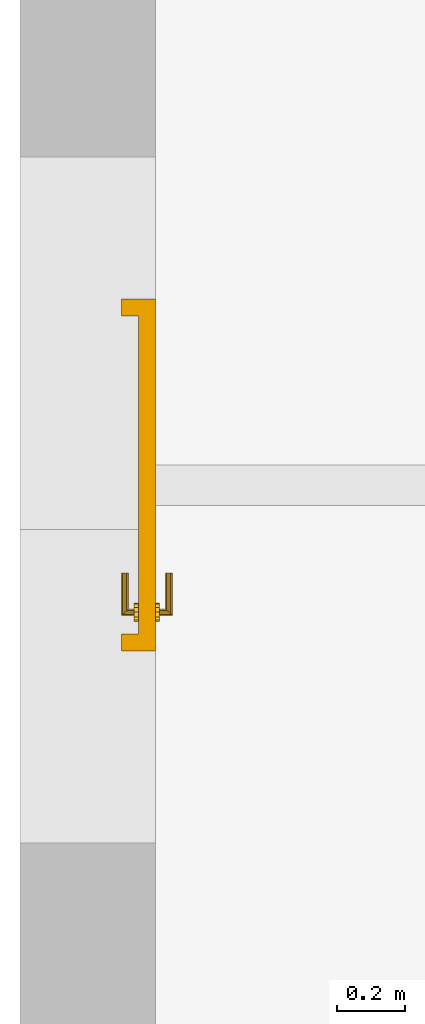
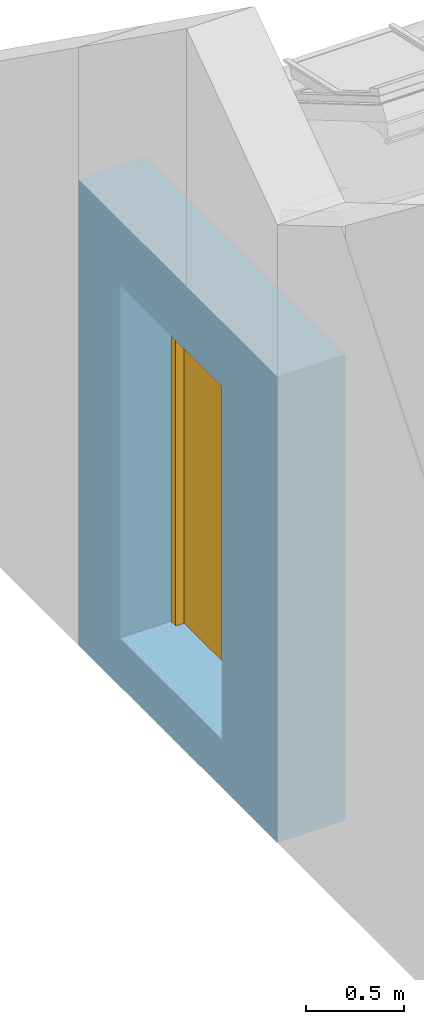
"""IFC4 building model written with IfcOpenShell, lengths in metres."""

from ifc_helpers import new_model, entity, si_unit, converted_unit, derived_unit, frame, frame_2d, origin, origin_with_axes, place, context, subcontext, project, spatial, polyline, rectangle, outline, extrude, faceted_brep, source, transform, mapped, material, layer, layer_set, layer_usage, type_object, element, fill, save


model = new_model("IFC4")

# Units and contexts
model_context = context("Model", 3, precision=1e-05, world=origin())
body_context = subcontext(model_context, "Body", "Model", "MODEL_VIEW")
ifc_project = project(units=[si_unit("LENGTHUNIT", "METRE"), si_unit("AREAUNIT", "SQUARE_METRE"), si_unit("VOLUMEUNIT", "CUBIC_METRE"), si_unit("MASSUNIT", "GRAM", prefix="KILO"), converted_unit("PLANEANGLEUNIT", "DEGREE", entity("IfcPlaneAngleMeasure", 0.0174532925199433), si_unit("PLANEANGLEUNIT", "RADIAN"), dimensions=[0, 0, 0, 0, 0, 0, 0]), derived_unit("THERMALTRANSMITTANCEUNIT", [(si_unit("POWERUNIT", "WATT"), 1), (si_unit("THERMODYNAMICTEMPERATUREUNIT", "KELVIN"), -1), (si_unit("LENGTHUNIT", "METRE"), -2)]), derived_unit("VOLUMETRICFLOWRATEUNIT", [(si_unit("LENGTHUNIT", "METRE"), 3), (converted_unit("TIMEUNIT", "hour", entity("IfcTimeMeasure", 3600.0), si_unit("TIMEUNIT", "SECOND"), dimensions=[0, 0, 1, 0, 0, 0, 0]), -1), (si_unit("LENGTHUNIT", "METRE"), -1)])], contexts=[model_context])

# Building, storeys
building_placement = place(None, origin())
building = spatial("IfcBuilding", under=ifc_project, at=building_placement, Name="Bestandsgebäude A - Sporthalle / Wohnhaus (TB 100-499)   ANPASSEN !!!", CompositionType="ELEMENT")
storey_1_placement = place(building_placement, frame((0.0, 0.0, 7.71)))
storey_1 = spatial("IfcBuildingStorey", under=building, at=storey_1_placement, Name="Geb. A Dachgeschoss (TB 450-499)", CompositionType="ELEMENT", Elevation=7.71)
storey_2_placement = place(storey_1_placement, frame((0.0, 0.0, 7.71)))
storey_2 = spatial("IfcBuildingStorey", under=storey_1, at=storey_2_placement, Name="Architektur (TB 450-459)", CompositionType="PARTIAL")

# Wall, opening, door
ifc_material = material(Name="concrete")
ifc_layer = layer(ifc_material, 0.4)
ifc_layer_set = layer_set([ifc_layer])
ifc_layer_usage = layer_usage(ifc_layer_set, "AXIS2", "POSITIVE", 0.0)
wall_placement = place(storey_2_placement, frame((-8.5, 5.63335874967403, -8.11), z_axis=(0.0, 0.0, 1.0), x_axis=(0.0, 1.0, 0.0)))
wall = element("IfcWall", 1, at=wall_placement, inside=storey_2, material=ifc_layer_usage, Name="reinforced - bearing", PredefinedType="USERDEFINED", context=body_context, shape_type="SweptSolid", body=[
    extrude(rectangle(XDim=2.02595714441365, YDim=0.4, at=frame_2d((1.01297857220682, 0.2), x_axis=(1.0, 0.0))), origin_with_axes(), (0.0, 0.0, 1.0), 2.9),
])
opening_placement = place(wall_placement, frame((1.60664125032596, 0.4, 0.299999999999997), z_axis=(0.0, -1.0, 0.0), x_axis=(0.0, 0.0, 1.0)))
opening = element("IfcOpeningElement", 2, at=opening_placement, cuts=wall, Name="Door opening", PredefinedType="OPENING", context=body_context, shape_type="SweptSolid", body=[
    extrude(outline(polyline([(2.2, 1.04), (2.2, 0.0), (0.0, 0.0), (0.0, 1.04), (2.2, 1.04)])), origin_with_axes(), (0.0, 0.0, 1.0), 0.4),
])
door_type = type_object("IfcDoorType", Name="door", OperationType="SINGLE_SWING_LEFT", ParameterTakesPrecedence=False, PredefinedType="DOOR")
shared_shape = source(origin_with_axes(), body_context, "Body", "Brep", [
    faceted_brep([(0.0, 0.100000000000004, 2.2), (0.0, 0.100000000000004, 0.0), (0.0500000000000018, 0.100000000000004, 0.0), (0.0500000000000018, 0.100000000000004, 2.2), (0.0, 0.0, 0.0), (0.0, 0.0, 2.2), (0.0500000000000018, 0.0, 2.2), (0.0500000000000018, 0.0, 0.0)], [[[0, 1, 2, 3]], [[4, 5, 6, 7]], [[1, 0, 5, 4]], [[2, 1, 4, 7]], [[3, 2, 7, 6]], [[0, 3, 6, 5]]], orient=[[False], [False], [False], [False], [False], [False]]),
    faceted_brep([(0.990000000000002, 0.100000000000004, 2.2), (0.990000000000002, 0.100000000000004, 0.0), (1.04, 0.100000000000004, 0.0), (1.04, 0.100000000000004, 2.2), (0.990000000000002, 0.0, 0.0), (0.990000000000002, 0.0, 2.2), (1.04, 0.0, 2.2), (1.04, 0.0, 0.0)], [[[0, 1, 2, 3]], [[4, 5, 6, 7]], [[1, 0, 5, 4]], [[2, 1, 4, 7]], [[3, 2, 7, 6]], [[0, 3, 6, 5]]], orient=[[False], [False], [False], [False], [False], [False]]),
    faceted_brep([(0.0500000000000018, 0.100000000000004, 2.2), (0.0500000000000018, 0.100000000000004, 2.15), (0.990000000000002, 0.100000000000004, 2.15), (0.990000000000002, 0.100000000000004, 2.2), (0.0500000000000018, 0.0, 2.15), (0.0500000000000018, 0.0, 2.2), (0.990000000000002, 0.0, 2.2), (0.990000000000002, 0.0, 2.15)], [[[0, 1, 2, 3]], [[4, 5, 6, 7]], [[1, 0, 5, 4]], [[2, 1, 4, 7]], [[3, 2, 7, 6]], [[0, 3, 6, 5]]], orient=[[False], [False], [False], [False], [False], [False]]),
    faceted_brep([(0.0500000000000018, 0.100000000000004, 2.15), (0.0500000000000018, 0.100000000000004, 0.0), (0.990000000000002, 0.100000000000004, 0.0), (0.990000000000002, 0.100000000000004, 2.15), (0.0500000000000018, 0.0500000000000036, 0.0), (0.0500000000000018, 0.0500000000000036, 2.15), (0.990000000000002, 0.0500000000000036, 2.15), (0.990000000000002, 0.0500000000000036, 0.0)], [[[0, 1, 2, 3]], [[4, 5, 6, 7]], [[1, 0, 5, 4]], [[2, 1, 4, 7]], [[3, 2, 7, 6]], [[0, 3, 6, 5]]], orient=[[False], [False], [False], [False], [False], [False]]),
    faceted_brep([(0.948815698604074, 0.0500000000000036, 0.936249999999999), (0.952500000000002, 0.0500000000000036, 0.949999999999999), (0.948815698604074, 0.0500000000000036, 0.963749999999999), (0.938750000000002, 0.0500000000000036, 0.973815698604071), (0.925000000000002, 0.0500000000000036, 0.977499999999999), (0.911250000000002, 0.0500000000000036, 0.973815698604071), (0.90118430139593, 0.0500000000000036, 0.963749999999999), (0.897500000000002, 0.0500000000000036, 0.949999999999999), (0.90118430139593, 0.0500000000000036, 0.936249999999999), (0.911250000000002, 0.0500000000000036, 0.926184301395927), (0.925000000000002, 0.0500000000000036, 0.922499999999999), (0.938750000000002, 0.0500000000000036, 0.926184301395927), (0.952500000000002, 0.0375000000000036, 0.949999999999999), (0.948815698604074, 0.0375000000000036, 0.936249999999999), (0.938750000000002, 0.0375000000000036, 0.926184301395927), (0.925000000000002, 0.0375000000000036, 0.922499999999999), (0.911250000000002, 0.0375000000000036, 0.926184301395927), (0.90118430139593, 0.0375000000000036, 0.936249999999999), (0.897500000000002, 0.0375000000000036, 0.949999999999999), (0.90118430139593, 0.0375000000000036, 0.963749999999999), (0.911250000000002, 0.0375000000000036, 0.973815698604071), (0.925000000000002, 0.0375000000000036, 0.977499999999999), (0.938750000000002, 0.0375000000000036, 0.973815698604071), (0.948815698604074, 0.0375000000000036, 0.963749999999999)], [[[0, 1, 2, 3, 4, 5, 6, 7, 8, 9, 10, 11]], [[12, 13, 14, 15, 16, 17, 18, 19, 20, 21, 22, 23]], [[1, 0, 13, 12]], [[2, 1, 12, 23]], [[3, 2, 23, 22]], [[4, 3, 22, 21]], [[5, 4, 21, 20]], [[6, 5, 20, 19]], [[7, 6, 19, 18]], [[8, 7, 18, 17]], [[9, 8, 17, 16]], [[10, 9, 16, 15]], [[11, 10, 15, 14]], [[0, 11, 14, 13]]], orient=[[False], [False], [False], [False], [False], [False], [False], [False], [False], [False], [False], [False], [False], [False]]),
    faceted_brep([(0.948815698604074, 0.0500000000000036, 1.03625), (0.952500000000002, 0.0500000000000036, 1.05), (0.948815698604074, 0.0500000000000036, 1.06375), (0.938750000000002, 0.0500000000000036, 1.07381569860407), (0.925000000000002, 0.0500000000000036, 1.0775), (0.911250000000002, 0.0500000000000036, 1.07381569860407), (0.90118430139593, 0.0500000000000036, 1.06375), (0.897500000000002, 0.0500000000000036, 1.05), (0.90118430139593, 0.0500000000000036, 1.03625), (0.911250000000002, 0.0500000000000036, 1.02618430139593), (0.925000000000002, 0.0500000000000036, 1.0225), (0.938750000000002, 0.0500000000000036, 1.02618430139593), (0.952500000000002, 0.0375000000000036, 1.05), (0.948815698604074, 0.0375000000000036, 1.03625), (0.938750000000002, 0.0375000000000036, 1.02618430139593), (0.925000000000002, 0.0375000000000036, 1.0225), (0.911250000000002, 0.0375000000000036, 1.02618430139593), (0.90118430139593, 0.0375000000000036, 1.03625), (0.897500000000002, 0.0375000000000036, 1.05), (0.90118430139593, 0.0375000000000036, 1.06375), (0.911250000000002, 0.0375000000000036, 1.07381569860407), (0.925000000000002, 0.0375000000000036, 1.0775), (0.938750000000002, 0.0375000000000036, 1.07381569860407), (0.948815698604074, 0.0375000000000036, 1.06375)], [[[0, 1, 2, 3, 4, 5, 6, 7, 8, 9, 10, 11]], [[12, 13, 14, 15, 16, 17, 18, 19, 20, 21, 22, 23]], [[1, 0, 13, 12]], [[2, 1, 12, 23]], [[3, 2, 23, 22]], [[4, 3, 22, 21]], [[5, 4, 21, 20]], [[6, 5, 20, 19]], [[7, 6, 19, 18]], [[8, 7, 18, 17]], [[9, 8, 17, 16]], [[10, 9, 16, 15]], [[11, 10, 15, 14]], [[0, 11, 14, 13]]], orient=[[False], [False], [False], [False], [False], [False], [False], [False], [False], [False], [False], [False], [False], [False]]),
    faceted_brep([(0.925000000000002, 0.0500000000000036, 1.06), (0.920000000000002, 0.0500000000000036, 1.05866025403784), (0.916339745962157, 0.0500000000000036, 1.055), (0.915000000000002, 0.0500000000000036, 1.05), (0.916339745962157, 0.0500000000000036, 1.045), (0.920000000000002, 0.0500000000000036, 1.04133974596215), (0.925000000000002, 0.0500000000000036, 1.04), (0.930000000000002, 0.0500000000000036, 1.04133974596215), (0.933660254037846, 0.0500000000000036, 1.045), (0.935000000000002, 0.0500000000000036, 1.05), (0.933660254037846, 0.0500000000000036, 1.055), (0.930000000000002, 0.0500000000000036, 1.05866025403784), (0.930000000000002, 0.00500000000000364, 1.05866025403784), (0.925000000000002, 0.0100000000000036, 1.06), (0.933660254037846, 0.00133974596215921, 1.055), (0.935000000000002, 0.0, 1.05), (0.933660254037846, 0.00133974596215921, 1.045), (0.930000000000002, 0.00500000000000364, 1.04133974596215), (0.925000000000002, 0.0100000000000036, 1.04), (0.920000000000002, 0.0150000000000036, 1.04133974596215), (0.916339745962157, 0.0186602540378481, 1.045), (0.915000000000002, 0.0200000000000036, 1.05), (0.916339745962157, 0.0186602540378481, 1.055), (0.920000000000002, 0.0150000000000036, 1.05866025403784), (0.810000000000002, 0.0100000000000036, 1.06), (0.810000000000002, 0.00500000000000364, 1.05866025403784), (0.810000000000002, 0.00133974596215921, 1.055), (0.810000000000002, 0.0, 1.05), (0.810000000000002, 0.00133974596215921, 1.045), (0.810000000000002, 0.00500000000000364, 1.04133974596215), (0.810000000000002, 0.0100000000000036, 1.04), (0.810000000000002, 0.0150000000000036, 1.04133974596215), (0.810000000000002, 0.0186602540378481, 1.045), (0.810000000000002, 0.0200000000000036, 1.05), (0.810000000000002, 0.0186602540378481, 1.055), (0.810000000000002, 0.0150000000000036, 1.05866025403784)], [[[0, 1, 2, 3, 4, 5, 6, 7, 8, 9, 10, 11]], [[0, 11, 12, 13]], [[11, 10, 14, 12]], [[10, 9, 15, 14]], [[9, 8, 16, 15]], [[8, 7, 17, 16]], [[7, 6, 18, 17]], [[6, 5, 19, 18]], [[5, 4, 20, 19]], [[4, 3, 21, 20]], [[3, 2, 22, 21]], [[2, 1, 23, 22]], [[1, 0, 13, 23]], [[24, 25, 26, 27, 28, 29, 30, 31, 32, 33, 34, 35]], [[13, 12, 25, 24]], [[12, 14, 26, 25]], [[14, 15, 27, 26]], [[15, 16, 28, 27]], [[16, 17, 29, 28]], [[17, 18, 30, 29]], [[18, 19, 31, 30]], [[19, 20, 32, 31]], [[20, 21, 33, 32]], [[21, 22, 34, 33]], [[22, 23, 35, 34]], [[23, 13, 24, 35]]], orient=[[False], [False], [False], [False], [False], [False], [False], [False], [False], [False], [False], [False], [False], [False], [False], [False], [False], [False], [False], [False], [False], [False], [False], [False], [False], [False]]),
    faceted_brep([(0.948815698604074, 0.100000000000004, 0.936249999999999), (0.938750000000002, 0.100000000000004, 0.926184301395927), (0.925000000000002, 0.100000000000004, 0.922499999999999), (0.911250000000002, 0.100000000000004, 0.926184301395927), (0.90118430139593, 0.100000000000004, 0.936249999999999), (0.897500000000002, 0.100000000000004, 0.949999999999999), (0.90118430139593, 0.100000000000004, 0.963749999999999), (0.911250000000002, 0.100000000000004, 0.973815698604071), (0.925000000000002, 0.100000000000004, 0.977499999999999), (0.938750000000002, 0.100000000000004, 0.973815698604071), (0.948815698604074, 0.100000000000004, 0.963749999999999), (0.952500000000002, 0.100000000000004, 0.949999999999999), (0.952500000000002, 0.112500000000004, 0.949999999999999), (0.948815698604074, 0.112500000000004, 0.963749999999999), (0.938750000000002, 0.112500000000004, 0.973815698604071), (0.925000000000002, 0.112500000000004, 0.977499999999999), (0.911250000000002, 0.112500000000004, 0.973815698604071), (0.90118430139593, 0.112500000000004, 0.963749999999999), (0.897500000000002, 0.112500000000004, 0.949999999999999), (0.90118430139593, 0.112500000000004, 0.936249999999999), (0.911250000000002, 0.112500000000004, 0.926184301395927), (0.925000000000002, 0.112500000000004, 0.922499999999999), (0.938750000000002, 0.112500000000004, 0.926184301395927), (0.948815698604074, 0.112500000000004, 0.936249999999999)], [[[0, 1, 2, 3, 4, 5, 6, 7, 8, 9, 10, 11]], [[12, 13, 14, 15, 16, 17, 18, 19, 20, 21, 22, 23]], [[11, 12, 23, 0]], [[10, 13, 12, 11]], [[9, 14, 13, 10]], [[8, 15, 14, 9]], [[7, 16, 15, 8]], [[6, 17, 16, 7]], [[5, 18, 17, 6]], [[4, 19, 18, 5]], [[3, 20, 19, 4]], [[2, 21, 20, 3]], [[1, 22, 21, 2]], [[0, 23, 22, 1]]], orient=[[False], [False], [False], [False], [False], [False], [False], [False], [False], [False], [False], [False], [False], [False]]),
    faceted_brep([(0.948815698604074, 0.100000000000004, 1.03625), (0.938750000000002, 0.100000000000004, 1.02618430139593), (0.925000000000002, 0.100000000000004, 1.0225), (0.911250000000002, 0.100000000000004, 1.02618430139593), (0.90118430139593, 0.100000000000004, 1.03625), (0.897500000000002, 0.100000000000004, 1.05), (0.90118430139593, 0.100000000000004, 1.06375), (0.911250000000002, 0.100000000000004, 1.07381569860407), (0.925000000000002, 0.100000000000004, 1.0775), (0.938750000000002, 0.100000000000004, 1.07381569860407), (0.948815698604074, 0.100000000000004, 1.06375), (0.952500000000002, 0.100000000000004, 1.05), (0.952500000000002, 0.112500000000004, 1.05), (0.948815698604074, 0.112500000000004, 1.06375), (0.938750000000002, 0.112500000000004, 1.07381569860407), (0.925000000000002, 0.112500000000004, 1.0775), (0.911250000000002, 0.112500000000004, 1.07381569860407), (0.90118430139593, 0.112500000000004, 1.06375), (0.897500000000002, 0.112500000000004, 1.05), (0.90118430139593, 0.112500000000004, 1.03625), (0.911250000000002, 0.112500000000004, 1.02618430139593), (0.925000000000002, 0.112500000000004, 1.0225), (0.938750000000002, 0.112500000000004, 1.02618430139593), (0.948815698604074, 0.112500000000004, 1.03625)], [[[0, 1, 2, 3, 4, 5, 6, 7, 8, 9, 10, 11]], [[12, 13, 14, 15, 16, 17, 18, 19, 20, 21, 22, 23]], [[11, 12, 23, 0]], [[10, 13, 12, 11]], [[9, 14, 13, 10]], [[8, 15, 14, 9]], [[7, 16, 15, 8]], [[6, 17, 16, 7]], [[5, 18, 17, 6]], [[4, 19, 18, 5]], [[3, 20, 19, 4]], [[2, 21, 20, 3]], [[1, 22, 21, 2]], [[0, 23, 22, 1]]], orient=[[False], [False], [False], [False], [False], [False], [False], [False], [False], [False], [False], [False], [False], [False]]),
    faceted_brep([(0.925000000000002, 0.100000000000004, 1.06), (0.930000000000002, 0.100000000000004, 1.05866025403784), (0.933660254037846, 0.100000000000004, 1.055), (0.935000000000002, 0.100000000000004, 1.05), (0.933660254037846, 0.100000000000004, 1.045), (0.930000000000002, 0.100000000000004, 1.04133974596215), (0.925000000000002, 0.100000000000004, 1.04), (0.920000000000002, 0.100000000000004, 1.04133974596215), (0.916339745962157, 0.100000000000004, 1.045), (0.915000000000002, 0.100000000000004, 1.05), (0.916339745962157, 0.100000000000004, 1.055), (0.920000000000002, 0.100000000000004, 1.05866025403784), (0.925000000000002, 0.140000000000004, 1.06), (0.930000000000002, 0.145000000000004, 1.05866025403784), (0.933660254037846, 0.148660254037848, 1.055), (0.935000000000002, 0.150000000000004, 1.05), (0.933660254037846, 0.148660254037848, 1.045), (0.930000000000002, 0.145000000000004, 1.04133974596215), (0.925000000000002, 0.140000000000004, 1.04), (0.920000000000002, 0.135000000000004, 1.04133974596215), (0.916339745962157, 0.131339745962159, 1.045), (0.915000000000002, 0.130000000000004, 1.05), (0.916339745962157, 0.131339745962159, 1.055), (0.920000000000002, 0.135000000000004, 1.05866025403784), (0.810000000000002, 0.140000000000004, 1.06), (0.810000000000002, 0.135000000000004, 1.05866025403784), (0.810000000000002, 0.131339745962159, 1.055), (0.810000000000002, 0.130000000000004, 1.05), (0.810000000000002, 0.131339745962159, 1.045), (0.810000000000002, 0.135000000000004, 1.04133974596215), (0.810000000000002, 0.140000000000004, 1.04), (0.810000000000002, 0.145000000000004, 1.04133974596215), (0.810000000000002, 0.148660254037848, 1.045), (0.810000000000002, 0.150000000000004, 1.05), (0.810000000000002, 0.148660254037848, 1.055), (0.810000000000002, 0.145000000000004, 1.05866025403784)], [[[0, 1, 2, 3, 4, 5, 6, 7, 8, 9, 10, 11]], [[0, 12, 13, 1]], [[1, 13, 14, 2]], [[2, 14, 15, 3]], [[3, 15, 16, 4]], [[4, 16, 17, 5]], [[5, 17, 18, 6]], [[6, 18, 19, 7]], [[7, 19, 20, 8]], [[8, 20, 21, 9]], [[9, 21, 22, 10]], [[10, 22, 23, 11]], [[11, 23, 12, 0]], [[24, 25, 26, 27, 28, 29, 30, 31, 32, 33, 34, 35]], [[12, 24, 35, 13]], [[13, 35, 34, 14]], [[14, 34, 33, 15]], [[15, 33, 32, 16]], [[16, 32, 31, 17]], [[17, 31, 30, 18]], [[18, 30, 29, 19]], [[19, 29, 28, 20]], [[20, 28, 27, 21]], [[21, 27, 26, 22]], [[22, 26, 25, 23]], [[23, 25, 24, 12]]], orient=[[False], [False], [False], [False], [False], [False], [False], [False], [False], [False], [False], [False], [False], [False], [False], [False], [False], [False], [False], [False], [False], [False], [False], [False], [False], [False]]),
])
door_placement = place(opening_placement, frame((0.0, 0.0, 0.3), z_axis=(1.0, 0.0, 0.0), x_axis=(0.0, 1.0, 0.0)))
door = element("IfcDoor", 3, at=door_placement, inside=storey_2, type_object=door_type, Name="door", OverallHeight=2.2, OverallWidth=1.04, PredefinedType="DOOR", context=body_context, shape_type="MappedRepresentation", body=[
    mapped(shared_shape, transform((0.0, 0.0, 0.0), x_axis=(1.0, 0.0, 0.0), y_axis=(0.0, 1.0, 0.0), z_axis=(0.0, 0.0, 1.0), scale=1.0)),
])
fill(opening, door)

save(model, "model.ifc")
